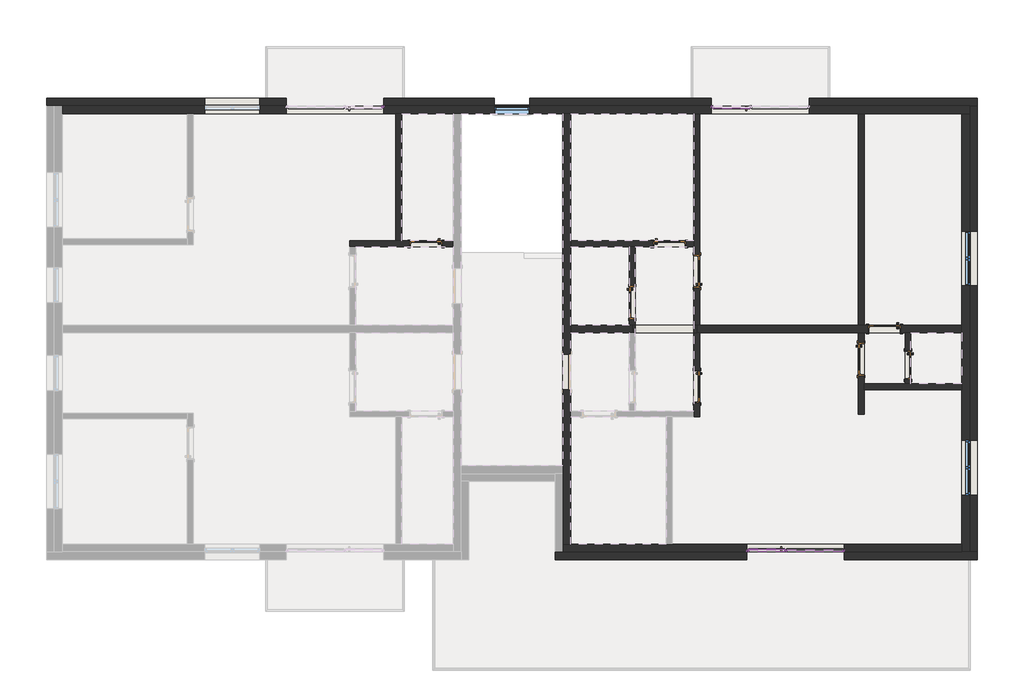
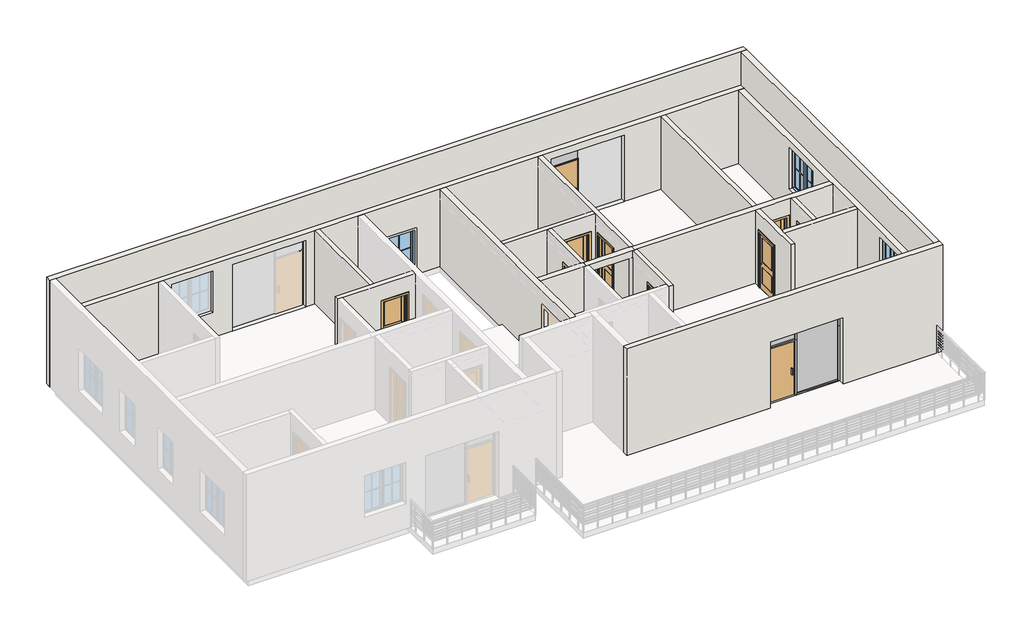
# One storey, part 2 of 6: 19 walls, 15 members, 10 doors, 3 plates, 3 windows.
"""IFC4 building model written with IfcOpenShell, lengths in millimetres."""

from ifc_helpers import new_model, si_unit, frame, origin, place, context, project, spatial, polyline, outline, extrude, faceted_brep, transform, mapped, element, save
from components import door_ff0059c9, door_21d3b074, door_700_x_2000mm_35cf3881, door_800_x_2000mm_7a4eaae7, door_800_x_2000mm_50fb24a1, door_800_x_2000mm_7f741745, member_50x50_mm_0b25df5f, member_50x50_mm_3bf2a5da, member_50x50_mm_d57dae31, member_50x50_mm_7f53e2b4, member_50x50_mm_58209b6d, member_50x50_mm_0f4eb3cd, member_50x50_mm_521fa47b, plate_240b6e4f, plate_5e06e8b0, plate_e159d5d1, window_1400_x_1500mm_e7e683e0, window_900_x_1500mm_3ca1c44a

model = new_model("IFC4")

# Units and contexts
model_context = context("Model", 3, world=origin())
ifc_project = project(units=[si_unit("LENGTHUNIT", "METRE", prefix="MILLI")], contexts=[model_context])

# Site, building, storey
site = spatial("IfcSite", under=ifc_project)
building = spatial("IfcBuilding", under=site)
storey = spatial("IfcBuildingStorey", under=building, Name="Podlaží 2", Elevation=3000.0)

# Doors
placement = place(None, origin())
door_shape = door_ff0059c9(model_context)
element("IfcDoor", 1, ObjectType="M_Dveře, obvodový plášť, jednoduché zasklení : M_Dveře, obvodový plášť, jednoduché zasklení", at=placement, inside=storey, context=model_context, shape_type="MappedRepresentation", body=[
    mapped(door_shape, transform((18012.5, 2325.0, 3000.0), x_axis=(-1.0, 0.0, 0.0), y_axis=(0.0, -1.0, 0.0), z_axis=(0.0, 0.0, 1.0))),
])
door_2_shape = door_21d3b074(model_context)
element("IfcDoor", 2, ObjectType="M_Dveře, obvodový plášť, jednoduché zasklení : M_Dveře, obvodový plášť, jednoduché zasklení", at=placement, inside=storey, context=model_context, shape_type="MappedRepresentation", body=[
    mapped(door_2_shape, transform((17112.5, 13675.0, 3000.0), x_axis=(-1.0, 0.0, 0.0), y_axis=(0.0, -1.0, 0.0), z_axis=(0.0, 0.0, 1.0))),
])
door_700_x_2000mm_shape = door_700_x_2000mm_35cf3881(model_context)
element("IfcDoor", 3, ObjectType="M_Dveře, vnitřní, jednokřídlé, dvě části, panel, dřevo : 700 x 2000mm", at=placement, inside=storey, context=model_context, shape_type="MappedRepresentation", body=[
    mapped(door_700_x_2000mm_shape, transform((21628.175, 7075.0, 3000.0), x_axis=(0.0, -1.0, 0.0), y_axis=(1.0, 0.0, 0.0), z_axis=(0.0, 0.0, 1.0))),
])
door_800_x_2000mm_shape = door_800_x_2000mm_7a4eaae7(model_context)
element("IfcDoor", 4, ObjectType="M_Dveře, vnitřní, jednokřídlé, dvě části, panel, dřevo : 800 x 2000mm", at=placement, inside=storey, context=model_context, shape_type="MappedRepresentation", body=[
    mapped(door_800_x_2000mm_shape, transform((9300.0, 10178.175, 3000.0), x_axis=(-1.0, 0.0, 0.0), y_axis=(0.0, -1.0, 0.0), z_axis=(0.0, 0.0, 1.0))),
])
element("IfcDoor", 5, ObjectType="M_Dveře, vnitřní, jednokřídlé, dvě části, panel, dřevo : 800 x 2000mm", at=placement, inside=storey, context=model_context, shape_type="MappedRepresentation", body=[
    mapped(door_800_x_2000mm_shape, transform((14571.825, 8675.0, 3000.0), x_axis=(0.0, -1.0, 0.0), y_axis=(1.0, 0.0, 0.0), z_axis=(0.0, 0.0, 1.0))),
])
element("IfcDoor", 6, ObjectType="M_Dveře, vnitřní, jednokřídlé, dvě části, panel, dřevo : 800 x 2000mm", at=placement, inside=storey, context=model_context, shape_type="MappedRepresentation", body=[
    mapped(door_800_x_2000mm_shape, transform((16228.175, 9475.0, 3000.0), x_axis=(0.0, 1.0, 0.0), y_axis=(-1.0, 0.0, 0.0), z_axis=(0.0, 0.0, 1.0))),
])
element("IfcDoor", 7, ObjectType="M_Dveře, vnitřní, jednokřídlé, dvě části, panel, dřevo : 800 x 2000mm", at=placement, inside=storey, context=model_context, shape_type="MappedRepresentation", body=[
    mapped(door_800_x_2000mm_shape, transform((20421.825, 7225.0, 3000.0), x_axis=(0.0, -1.0, 0.0), y_axis=(1.0, 0.0, 0.0), z_axis=(0.0, 0.0, 1.0))),
])
door_800_x_2000mm_2_shape = door_800_x_2000mm_50fb24a1(model_context)
element("IfcDoor", 8, ObjectType="M_Dveře, vnitřní, jednokřídlé, dvě části, panel, dřevo : 800 x 2000mm", at=placement, inside=storey, context=model_context, shape_type="MappedRepresentation", body=[
    mapped(door_800_x_2000mm_2_shape, transform((15525.0, 10178.175, 3000.0), x_axis=(1.0, 0.0, 0.0), y_axis=(0.0, 1.0, 0.0), z_axis=(0.0, 0.0, 1.0))),
])
element("IfcDoor", 9, ObjectType="M_Dveře, vnitřní, jednokřídlé, dvě části, panel, dřevo : 800 x 2000mm", at=placement, inside=storey, context=model_context, shape_type="MappedRepresentation", body=[
    mapped(door_800_x_2000mm_2_shape, transform((16228.175, 6525.0, 3000.0), x_axis=(0.0, -1.0, 0.0), y_axis=(1.0, 0.0, 0.0), z_axis=(0.0, 0.0, 1.0))),
])
door_800_x_2000mm_3_shape = door_800_x_2000mm_7f741745(model_context)
element("IfcDoor", 10, ObjectType="M_Dveře, vnitřní, jednokřídlé, dvě části, panel, dřevo : 800 x 2000mm", at=placement, inside=storey, context=model_context, shape_type="MappedRepresentation", body=[
    mapped(door_800_x_2000mm_3_shape, transform((21025.0, 8003.175, 3000.0), x_axis=(-1.0, 0.0, 0.0), y_axis=(0.0, -1.0, 0.0), z_axis=(0.0, 0.0, 1.0))),
])

# Members
member_50x50_mm_shape = member_50x50_mm_0b25df5f(model_context)
element("IfcMember", 11, ObjectType="Obdélníková příčel : 50x50 mm", at=placement, inside=storey, context=model_context, shape_type="MappedRepresentation", body=[
    mapped(member_50x50_mm_shape, transform((19950.0, 2325.0, 5400.0), x_axis=(0.0, 0.0, 1.0), y_axis=(0.0, -1.0, 0.0), z_axis=(1.0, 0.0, 0.0))),
])
member_50x50_mm_2_shape = member_50x50_mm_3bf2a5da(model_context)
element("IfcMember", 12, ObjectType="Obdélníková příčel : 50x50 mm", at=placement, inside=storey, context=model_context, shape_type="MappedRepresentation", body=[
    mapped(member_50x50_mm_2_shape, transform((18500.0, 2325.0, 3000.0), x_axis=(1.0, 0.0, 0.0), y_axis=(0.0, -1.0, 0.0), z_axis=(0.0, 0.0, -1.0))),
])
member_50x50_mm_3_shape = member_50x50_mm_d57dae31(model_context)
element("IfcMember", 13, ObjectType="Obdélníková příčel : 50x50 mm", at=placement, inside=storey, context=model_context, shape_type="MappedRepresentation", body=[
    mapped(member_50x50_mm_3_shape, transform((18475.0, 2325.0, 5000.0), x_axis=(0.0, 0.0, 1.0), y_axis=(0.0, -1.0, 0.0), z_axis=(1.0, 0.0, 0.0))),
])
element("IfcMember", 14, ObjectType="Obdélníková příčel : 50x50 mm", at=placement, inside=storey, context=model_context, shape_type="MappedRepresentation", body=[
    mapped(member_50x50_mm_shape, transform((18525.0, 2325.0, 3000.0), x_axis=(0.0, 0.0, -1.0), y_axis=(0.0, -1.0, 0.0), z_axis=(-1.0, 0.0, 0.0))),
])
member_50x50_mm_4_shape = member_50x50_mm_7f53e2b4(model_context)
element("IfcMember", 15, ObjectType="Obdélníková příčel : 50x50 mm", at=placement, inside=storey, context=model_context, shape_type="MappedRepresentation", body=[
    mapped(member_50x50_mm_4_shape, transform((18475.0, 2325.0, 5400.0), x_axis=(0.0, 0.0, 1.0), y_axis=(0.0, -1.0, 0.0), z_axis=(1.0, 0.0, 0.0))),
])
member_50x50_mm_5_shape = member_50x50_mm_58209b6d(model_context)
element("IfcMember", 16, ObjectType="Obdélníková příčel : 50x50 mm", at=placement, inside=storey, context=model_context, shape_type="MappedRepresentation", body=[
    mapped(member_50x50_mm_5_shape, transform((18500.0, 2325.0, 5000.0), x_axis=(1.0, 0.0, 0.0), y_axis=(0.0, -1.0, 0.0), z_axis=(0.0, 0.0, -1.0))),
])
member_50x50_mm_6_shape = member_50x50_mm_0f4eb3cd(model_context)
element("IfcMember", 17, ObjectType="Obdélníková příčel : 50x50 mm", at=placement, inside=storey, context=model_context, shape_type="MappedRepresentation", body=[
    mapped(member_50x50_mm_6_shape, transform((17500.0, 2325.0, 5400.0), x_axis=(-1.0, 0.0, 0.0), y_axis=(0.0, -1.0, 0.0), z_axis=(0.0, 0.0, 1.0))),
])
member_50x50_mm_7_shape = member_50x50_mm_521fa47b(model_context)
element("IfcMember", 18, ObjectType="Obdélníková příčel : 50x50 mm", at=placement, inside=storey, context=model_context, shape_type="MappedRepresentation", body=[
    mapped(member_50x50_mm_7_shape, transform((20000.0, 2325.0, 3000.0), x_axis=(1.0, 0.0, 0.0), y_axis=(0.0, -1.0, 0.0), z_axis=(0.0, 0.0, -1.0))),
])
element("IfcMember", 19, ObjectType="Obdélníková příčel : 50x50 mm", at=placement, inside=storey, context=model_context, shape_type="MappedRepresentation", body=[
    mapped(member_50x50_mm_6_shape, transform((20000.0, 2325.0, 5000.0), x_axis=(1.0, 0.0, 0.0), y_axis=(0.0, -1.0, 0.0), z_axis=(0.0, 0.0, -1.0))),
])
element("IfcMember", 20, ObjectType="Obdélníková příčel : 50x50 mm", at=placement, inside=storey, context=model_context, shape_type="MappedRepresentation", body=[
    mapped(member_50x50_mm_7_shape, transform((17500.0, 2325.0, 5000.0), x_axis=(-1.0, 0.0, 0.0), y_axis=(0.0, -1.0, 0.0), z_axis=(0.0, 0.0, 1.0))),
])
element("IfcMember", 21, ObjectType="Obdélníková příčel : 50x50 mm", at=placement, inside=storey, context=model_context, shape_type="MappedRepresentation", body=[
    mapped(member_50x50_mm_2_shape, transform((17600.0, 13675.0, 3000.0), x_axis=(1.0, 0.0, 0.0), y_axis=(0.0, -1.0, 0.0), z_axis=(0.0, 0.0, -1.0))),
])
element("IfcMember", 22, ObjectType="Obdélníková příčel : 50x50 mm", at=placement, inside=storey, context=model_context, shape_type="MappedRepresentation", body=[
    mapped(member_50x50_mm_6_shape, transform((16600.0, 13675.0, 5400.0), x_axis=(-1.0, 0.0, 0.0), y_axis=(0.0, -1.0, 0.0), z_axis=(0.0, 0.0, 1.0))),
])
element("IfcMember", 23, ObjectType="Obdélníková příčel : 50x50 mm", at=placement, inside=storey, context=model_context, shape_type="MappedRepresentation", body=[
    mapped(member_50x50_mm_7_shape, transform((16600.0, 13675.0, 5000.0), x_axis=(-1.0, 0.0, 0.0), y_axis=(0.0, -1.0, 0.0), z_axis=(0.0, 0.0, 1.0))),
])
element("IfcMember", 24, ObjectType="Obdélníková příčel : 50x50 mm", at=placement, inside=storey, context=model_context, shape_type="MappedRepresentation", body=[
    mapped(member_50x50_mm_6_shape, transform((8225.0, 13675.0, 5400.0), x_axis=(1.0, 0.0, 0.0), y_axis=(0.0, 1.0, 0.0), z_axis=(0.0, 0.0, 1.0))),
])
element("IfcMember", 25, ObjectType="Obdélníková příčel : 50x50 mm", at=placement, inside=storey, context=model_context, shape_type="MappedRepresentation", body=[
    mapped(member_50x50_mm_7_shape, transform((8225.0, 13675.0, 5000.0), x_axis=(1.0, 0.0, 0.0), y_axis=(0.0, 1.0, 0.0), z_axis=(0.0, 0.0, 1.0))),
])

# Plates
plate_shape = plate_240b6e4f(model_context)
element("IfcPlate", 26, ObjectType="Systémový panel : Zasklené", at=placement, inside=storey, context=model_context, shape_type="MappedRepresentation", body=[
    mapped(plate_shape, transform((19237.5, 2325.0, 3050.0), x_axis=(1.0, 0.0, 0.0), y_axis=(0.0, 1.0, 0.0), z_axis=(0.0, 0.0, 1.0))),
])
plate_2_shape = plate_5e06e8b0(model_context)
element("IfcPlate", 27, ObjectType="Systémový panel : Zasklené", at=placement, inside=storey, context=model_context, shape_type="MappedRepresentation", body=[
    mapped(plate_2_shape, transform((18012.5, 2325.0, 5025.0), x_axis=(1.0, 0.0, 0.0), y_axis=(0.0, 1.0, 0.0), z_axis=(0.0, 0.0, 1.0))),
])
plate_3_shape = plate_e159d5d1(model_context)
element("IfcPlate", 28, ObjectType="Systémový panel : Zasklené", at=placement, inside=storey, context=model_context, shape_type="MappedRepresentation", body=[
    mapped(plate_3_shape, transform((17112.5, 13675.0, 5025.0), x_axis=(1.0, 0.0, 0.0), y_axis=(0.0, 1.0, 0.0), z_axis=(0.0, 0.0, 1.0))),
])

# Walls
element("IfcWall", 29, ObjectType="Železobeton 200 mm", at=placement, inside=storey, context=model_context, shape_type="Brep", body=[
    faceted_brep([(0.0, 13500.0, 2850.0), (3200.0, 13500.0, 2850.0), (3350.0, 13500.0, 2850.0), (8525.0, 13500.0, 2850.0), (8675.0, 13500.0, 2850.0), (10000.0, 13500.0, 2850.0), (10200.0, 13500.0, 2850.0), (12800.0, 13500.0, 2850.0), (13000.0, 13500.0, 2850.0), (16150.0, 13500.0, 2850.0), (16300.0, 13500.0, 2850.0), (20350.0, 13500.0, 2850.0), (20500.0, 13500.0, 2850.0), (23000.0, 13500.0, 2850.0), (23200.0, 13500.0, 2850.0), (23200.0, 13500.0, 5650.0), (23000.0, 13500.0, 5650.0), (20500.0, 13500.0, 5650.0), (20350.0, 13500.0, 5650.0), (16300.0, 13500.0, 5650.0), (16150.0, 13500.0, 5650.0), (13000.0, 13500.0, 5650.0), (12800.0, 13500.0, 5650.0), (10200.0, 13500.0, 5650.0), (10000.0, 13500.0, 5650.0), (8675.0, 13500.0, 5650.0), (8525.0, 13500.0, 5650.0), (3350.0, 13500.0, 5650.0), (3200.0, 13500.0, 5650.0), (0.0, 13500.0, 5650.0), (3650.0, 13500.0, 5400.0), (5050.0, 13500.0, 5400.0), (5050.0, 13500.0, 3900.0), (3650.0, 13500.0, 3900.0), (11950.0, 13500.0, 4500.0), (11950.0, 13500.0, 3000.0), (11050.0, 13500.0, 3000.0), (11050.0, 13500.0, 4500.0), (16600.0, 13500.0, 3000.0), (16600.0, 13500.0, 5400.0), (19100.0, 13500.0, 5400.0), (19100.0, 13500.0, 3000.0), (8225.0, 13500.0, 5400.0), (8225.0, 13500.0, 3000.0), (5725.0, 13500.0, 3000.0), (5725.0, 13500.0, 5400.0), (23200.0, 13700.0, 2850.0), (0.0, 13700.0, 2850.0), (0.0, 13700.0, 5650.0), (23200.0, 13700.0, 5650.0), (23200.0, 13700.0, 3000.0), (3650.0, 13700.0, 5400.0), (3650.0, 13700.0, 3900.0), (5050.0, 13700.0, 3900.0), (5050.0, 13700.0, 5400.0), (11950.0, 13700.0, 4500.0), (11050.0, 13700.0, 4500.0), (11050.0, 13700.0, 3000.0), (11950.0, 13700.0, 3000.0), (16600.0, 13700.0, 5400.0), (16600.0, 13700.0, 3000.0), (19100.0, 13700.0, 3000.0), (19100.0, 13700.0, 5400.0), (8225.0, 13700.0, 3000.0), (8225.0, 13700.0, 5400.0), (5725.0, 13700.0, 5400.0), (5725.0, 13700.0, 3000.0)], [[[0, 1, 2, 3, 4, 5, 6, 7, 8, 9, 10, 11, 12, 13, 14, 15, 16, 17, 18, 19, 20, 21, 22, 23, 24, 25, 26, 27, 28, 29], [30, 31, 32, 33], [34, 35, 36, 37], [38, 39, 40, 41], [42, 43, 44, 45]], [[46, 47, 48, 49, 50], [51, 52, 53, 54], [55, 56, 57, 58], [59, 60, 61, 62], [63, 64, 65, 66]], [[14, 13, 12, 11, 10, 9, 8, 7, 6, 5, 4, 3, 2, 1, 0, 47, 46]], [[29, 28, 27, 26, 25, 24, 23, 22, 21, 20, 19, 18, 17, 16, 15, 49, 48]], [[0, 29, 48, 47]], [[15, 14, 46, 50, 49]], [[52, 51, 30, 33]], [[53, 52, 33, 32]], [[54, 53, 32, 31]], [[51, 54, 31, 30]], [[35, 34, 55, 58]], [[36, 35, 58, 57]], [[37, 36, 57, 56]], [[34, 37, 56, 55]], [[38, 60, 59, 39]], [[39, 59, 62, 40]], [[40, 62, 61, 41]], [[60, 38, 41, 61]], [[63, 43, 42, 64]], [[64, 42, 45, 65]], [[44, 66, 65, 45]], [[43, 63, 66, 44]]]),
])
element("IfcWall", 30, ObjectType="Železobeton 200 mm", at=placement, inside=storey, context=model_context, shape_type="Brep", body=[
    faceted_brep([(23000.0, 13500.0, 2850.0), (23000.0, 8100.0, 2850.0), (23000.0, 7900.0, 2850.0), (23000.0, 6600.0, 2850.0), (23000.0, 6450.0, 2850.0), (23000.0, 2500.0, 2850.0), (23000.0, 2300.0, 2850.0), (23000.0, 2300.0, 5650.0), (23000.0, 2500.0, 5650.0), (23000.0, 6450.0, 5650.0), (23000.0, 6600.0, 5650.0), (23000.0, 7900.0, 5650.0), (23000.0, 8100.0, 5650.0), (23000.0, 13500.0, 5650.0), (23000.0, 10500.0, 5400.0), (23000.0, 9100.0, 5400.0), (23000.0, 9100.0, 3900.0), (23000.0, 10500.0, 3900.0), (23000.0, 5150.0, 5400.0), (23000.0, 3750.0, 5400.0), (23000.0, 3750.0, 3900.0), (23000.0, 5150.0, 3900.0), (23200.0, 13500.0, 2850.0), (23200.0, 13500.0, 5650.0), (23200.0, 2300.0, 5650.0), (23200.0, 2300.0, 3000.0), (23200.0, 2300.0, 2850.0), (23200.0, 10500.0, 5400.0), (23200.0, 10500.0, 3900.0), (23200.0, 9100.0, 3900.0), (23200.0, 9100.0, 5400.0), (23200.0, 5150.0, 5400.0), (23200.0, 5150.0, 3900.0), (23200.0, 3750.0, 3900.0), (23200.0, 3750.0, 5400.0)], [[[0, 1, 2, 3, 4, 5, 6, 7, 8, 9, 10, 11, 12, 13], [14, 15, 16, 17], [18, 19, 20, 21]], [[22, 23, 24, 25, 26], [27, 28, 29, 30], [31, 32, 33, 34]], [[6, 5, 4, 3, 2, 1, 0, 22, 26]], [[13, 12, 11, 10, 9, 8, 7, 24, 23]], [[0, 13, 23, 22]], [[7, 6, 26, 25, 24]], [[28, 27, 14, 17]], [[29, 28, 17, 16]], [[30, 29, 16, 15]], [[27, 30, 15, 14]], [[32, 31, 18, 21]], [[33, 32, 21, 20]], [[34, 33, 20, 19]], [[31, 34, 19, 18]]]),
])
element("IfcWall", 31, ObjectType="Železobeton 200 mm", at=placement, inside=storey, context=model_context, shape_type="Brep", body=[
    faceted_brep([(23000.0, 2500.0, 2850.0), (15600.0, 2500.0, 2850.0), (15450.0, 2500.0, 2850.0), (13000.0, 2500.0, 2850.0), (12800.0, 2500.0, 2850.0), (12800.0, 2500.0, 5650.0), (13000.0, 2500.0, 5650.0), (15450.0, 2500.0, 5650.0), (15600.0, 2500.0, 5650.0), (23000.0, 2500.0, 5650.0), (17500.0, 2500.0, 5400.0), (17500.0, 2500.0, 3000.0), (20000.0, 2500.0, 3000.0), (20000.0, 2500.0, 5400.0), (12800.0, 2300.0, 2850.0), (23000.0, 2300.0, 2850.0), (23000.0, 2300.0, 5650.0), (12800.0, 2300.0, 5650.0), (12800.0, 2300.0, 3000.0), (17500.0, 2300.0, 3000.0), (17500.0, 2300.0, 5400.0), (20000.0, 2300.0, 5400.0), (20000.0, 2300.0, 3000.0)], [[[0, 1, 2, 3, 4, 5, 6, 7, 8, 9], [10, 11, 12, 13]], [[14, 15, 16, 17, 18], [19, 20, 21, 22]], [[4, 3, 2, 1, 0, 15, 14]], [[9, 8, 7, 6, 5, 17, 16]], [[0, 9, 16, 15]], [[5, 4, 14, 18, 17]], [[19, 11, 10, 20]], [[20, 10, 13, 21]], [[21, 13, 12, 22]], [[11, 19, 22, 12]]]),
])
element("IfcWall", 32, ObjectType="Železobeton 200 mm", at=placement, inside=storey, context=model_context, shape_type="Brep", body=[
    faceted_brep([(13000.0, 2500.0, 2850.0), (13000.0, 5750.0, 2850.0), (13000.0, 5900.0, 2850.0), (13000.0, 7900.0, 2850.0), (13000.0, 8100.0, 2850.0), (13000.0, 10100.0, 2850.0), (13000.0, 10250.0, 2850.0), (13000.0, 13500.0, 2850.0), (13000.0, 13500.0, 5650.0), (13000.0, 10250.0, 5650.0), (13000.0, 10100.0, 5650.0), (13000.0, 8100.0, 5650.0), (13000.0, 7900.0, 5650.0), (13000.0, 5900.0, 5650.0), (13000.0, 5750.0, 5650.0), (13000.0, 2500.0, 5650.0), (13000.0, 6450.0, 3000.0), (13000.0, 6450.0, 5100.0), (13000.0, 7350.0, 5100.0), (13000.0, 7350.0, 3000.0), (12800.0, 2500.0, 2850.0), (12800.0, 2500.0, 5650.0), (12800.0, 4300.0, 5650.0), (12800.0, 4500.0, 5650.0), (12800.0, 13500.0, 5650.0), (12800.0, 13500.0, 2850.0), (12800.0, 4500.0, 2850.0), (12800.0, 4300.0, 2850.0), (12800.0, 6450.0, 3000.0), (12800.0, 7350.0, 3000.0), (12800.0, 7350.0, 5100.0), (12800.0, 6450.0, 5100.0)], [[[0, 1, 2, 3, 4, 5, 6, 7, 8, 9, 10, 11, 12, 13, 14, 15], [16, 17, 18, 19]], [[20, 21, 22, 23, 24, 25, 26, 27], [28, 29, 30, 31]], [[7, 6, 5, 4, 3, 2, 1, 0, 20, 27, 26, 25]], [[15, 14, 13, 12, 11, 10, 9, 8, 24, 23, 22, 21]], [[0, 15, 21, 20]], [[8, 7, 25, 24]], [[29, 28, 16, 19]], [[30, 29, 19, 18]], [[31, 30, 18, 17]], [[28, 31, 17, 16]]]),
])
element("IfcWall", 33, ObjectType="Železobeton 200 mm", at=placement, inside=storey, context=model_context, shape_type="Brep", body=[
    faceted_brep([(13000.0, 7900.0, 2850.0), (14500.0, 7900.0, 2850.0), (14575.0, 7900.0, 2850.0), (14575.0, 7900.0, 5650.0), (14500.0, 7900.0, 5650.0), (13000.0, 7900.0, 5650.0), (13000.0, 8100.0, 2850.0), (13000.0, 8100.0, 5650.0), (14500.0, 8100.0, 5650.0), (14575.0, 8100.0, 5650.0), (14575.0, 8100.0, 2850.0), (14500.0, 8100.0, 2850.0)], [[[0, 1, 2, 3, 4, 5]], [[6, 7, 8, 9, 10, 11]], [[2, 1, 0, 6, 11, 10]], [[3, 2, 10, 9]], [[5, 4, 3, 9, 8, 7]], [[0, 5, 7, 6]]]),
])
element("IfcWall", 34, ObjectType="Obecné, 150mm cihla", at=placement, inside=storey, context=model_context, shape_type="Brep", body=[
    faceted_brep([(10000.0, 10250.0, 2850.0), (8675.0, 10250.0, 2850.0), (8525.0, 10250.0, 2850.0), (7350.0, 10250.0, 2850.0), (7350.0, 10250.0, 5650.0), (8525.0, 10250.0, 5650.0), (8675.0, 10250.0, 5650.0), (10000.0, 10250.0, 5650.0), (8875.0, 10250.0, 5025.0), (8875.0, 10250.0, 3000.0), (9725.0, 10250.0, 3000.0), (9725.0, 10250.0, 5025.0), (7350.0, 10100.0, 2850.0), (7500.0, 10100.0, 2850.0), (10000.0, 10100.0, 2850.0), (10000.0, 10100.0, 5650.0), (7500.0, 10100.0, 5650.0), (7350.0, 10100.0, 5650.0), (8875.0, 10100.0, 3000.0), (8875.0, 10100.0, 5025.0), (9725.0, 10100.0, 5025.0), (9725.0, 10100.0, 3000.0)], [[[0, 1, 2, 3, 4, 5, 6, 7], [8, 9, 10, 11]], [[12, 13, 14, 15, 16, 17], [18, 19, 20, 21]], [[3, 2, 1, 0, 14, 13, 12]], [[7, 6, 5, 4, 17, 16, 15]], [[0, 7, 15, 14]], [[4, 3, 12, 17]], [[18, 9, 8, 19]], [[19, 8, 11, 20]], [[20, 11, 10, 21]], [[9, 18, 21, 10]]]),
])
element("IfcWall", 35, ObjectType="Obecné, 150mm cihla", at=placement, inside=storey, context=model_context, shape_type="SweptSolid", body=[
    extrude(outline(polyline([(8675.0, 13500.0), (8675.0, 10250.0), (8525.0, 10250.0), (8525.0, 13500.0), (8675.0, 13500.0)])), frame((0.0, 0.0, 2850.0), z_axis=(0.0, 0.0, 1.0), x_axis=(1.0, 0.0, 0.0)), (0.0, 0.0, 1.0), 2800.0),
])
element("IfcWall", 36, ObjectType="Obecné, 150mm cihla", at=placement, inside=storey, context=model_context, shape_type="Brep", body=[
    faceted_brep([(16150.0, 10250.0, 2850.0), (13000.0, 10250.0, 2850.0), (13000.0, 10250.0, 5650.0), (16150.0, 10250.0, 5650.0), (15950.0, 10250.0, 3000.0), (15950.0, 10250.0, 5025.0), (15100.0, 10250.0, 5025.0), (15100.0, 10250.0, 3000.0), (13000.0, 10100.0, 2850.0), (14500.0, 10100.0, 2850.0), (14650.0, 10100.0, 2850.0), (16150.0, 10100.0, 2850.0), (16150.0, 10100.0, 5650.0), (14650.0, 10100.0, 5650.0), (14500.0, 10100.0, 5650.0), (13000.0, 10100.0, 5650.0), (15950.0, 10100.0, 5025.0), (15950.0, 10100.0, 3000.0), (15100.0, 10100.0, 3000.0), (15100.0, 10100.0, 5025.0)], [[[0, 1, 2, 3], [4, 5, 6, 7]], [[8, 9, 10, 11, 12, 13, 14, 15], [16, 17, 18, 19]], [[1, 0, 11, 10, 9, 8]], [[3, 2, 15, 14, 13, 12]], [[2, 1, 8, 15]], [[0, 3, 12, 11]], [[4, 17, 16, 5]], [[5, 16, 19, 6]], [[6, 19, 18, 7]], [[17, 4, 7, 18]]]),
])
element("IfcWall", 37, ObjectType="Obecné, 150mm cihla", at=placement, inside=storey, context=model_context, shape_type="Brep", body=[
    faceted_brep([(16300.0, 5750.0, 2850.0), (16300.0, 7900.0, 2850.0), (16300.0, 7900.0, 5650.0), (16300.0, 5750.0, 5650.0), (16300.0, 6100.0, 3000.0), (16300.0, 6100.0, 5025.0), (16300.0, 6950.0, 5025.0), (16300.0, 6950.0, 3000.0), (16150.0, 7900.0, 2850.0), (16150.0, 5900.0, 2850.0), (16150.0, 5750.0, 2850.0), (16150.0, 5750.0, 5650.0), (16150.0, 5900.0, 5650.0), (16150.0, 7900.0, 5650.0), (16150.0, 7900.0, 5400.0), (16150.0, 7900.0, 3000.0), (16150.0, 6100.0, 5025.0), (16150.0, 6100.0, 3000.0), (16150.0, 6950.0, 3000.0), (16150.0, 6950.0, 5025.0), (16225.0, 7900.0, 2850.0), (16225.0, 7900.0, 5650.0)], [[[0, 1, 2, 3], [4, 5, 6, 7]], [[8, 9, 10, 11, 12, 13, 14, 15], [16, 17, 18, 19]], [[1, 0, 10, 9, 8, 20]], [[3, 2, 21, 13, 12, 11]], [[0, 3, 11, 10]], [[4, 17, 16, 5]], [[5, 16, 19, 6]], [[6, 19, 18, 7]], [[17, 4, 7, 18]], [[2, 1, 20, 8, 15, 14, 13, 21]]]),
])
element("IfcWall", 38, ObjectType="Obecné, 150mm cihla", at=placement, inside=storey, context=model_context, shape_type="Brep", body=[
    faceted_brep([(20500.0, 5825.0, 5650.0), (20500.0, 5825.0, 2850.0), (20500.0, 6450.0, 2850.0), (20500.0, 6600.0, 2850.0), (20500.0, 7900.0, 2850.0), (20500.0, 7900.0, 5650.0), (20500.0, 6600.0, 5650.0), (20500.0, 6450.0, 5650.0), (20500.0, 6800.0, 3000.0), (20500.0, 6800.0, 5025.0), (20500.0, 7650.0, 5025.0), (20500.0, 7650.0, 3000.0), (20350.0, 5825.0, 2850.0), (20350.0, 5825.0, 5650.0), (20350.0, 7900.0, 5650.0), (20350.0, 7900.0, 2850.0), (20350.0, 6800.0, 5025.0), (20350.0, 6800.0, 3000.0), (20350.0, 7650.0, 3000.0), (20350.0, 7650.0, 5025.0)], [[[0, 1, 2, 3, 4, 5, 6, 7], [8, 9, 10, 11]], [[12, 13, 14, 15], [16, 17, 18, 19]], [[1, 12, 15, 4, 3, 2]], [[13, 0, 7, 6, 5, 14]], [[1, 0, 13, 12]], [[8, 17, 16, 9]], [[9, 16, 19, 10]], [[18, 11, 10, 19]], [[17, 8, 11, 18]], [[5, 4, 15, 14]]]),
    faceted_brep([(20500.0, 13500.0, 2850.0), (20500.0, 13500.0, 5650.0), (20500.0, 8100.0, 5650.0), (20500.0, 8100.0, 2850.0), (20350.0, 13500.0, 5650.0), (20350.0, 13500.0, 2850.0), (20350.0, 8100.0, 2850.0), (20350.0, 8100.0, 5650.0)], [[[0, 1, 2, 3]], [[4, 5, 6, 7]], [[5, 0, 3, 6]], [[1, 4, 7, 2]], [[1, 0, 5, 4]], [[3, 2, 7, 6]]]),
])
element("IfcWall", 39, ObjectType="Obecné, 150mm cihla", at=placement, inside=storey, context=model_context, shape_type="Brep", body=[
    faceted_brep([(20500.0, 6450.0, 2850.0), (23000.0, 6450.0, 2850.0), (23000.0, 6450.0, 5650.0), (20500.0, 6450.0, 5650.0), (20500.0, 6600.0, 2850.0), (20500.0, 6600.0, 5650.0), (21550.0, 6600.0, 5650.0), (21700.0, 6600.0, 5650.0), (23000.0, 6600.0, 5650.0), (23000.0, 6600.0, 2850.0), (21700.0, 6600.0, 2850.0), (21550.0, 6600.0, 2850.0)], [[[0, 1, 2, 3]], [[4, 5, 6, 7, 8, 9, 10, 11]], [[1, 0, 4, 11, 10, 9]], [[3, 2, 8, 7, 6, 5]], [[2, 1, 9, 8]], [[0, 3, 5, 4]]]),
])
element("IfcWall", 40, ObjectType="Obecné, 150mm cihla", at=placement, inside=storey, context=model_context, shape_type="SweptSolid", body=[
    extrude(outline(polyline([(7900.0, 2850.0), (6600.0, 2850.0), (6600.0, 5650.0), (7900.0, 5650.0), (7900.0, 2850.0)]), holes=[polyline([(6700.0, 5025.0), (6700.0, 3000.0), (7450.0, 3000.0), (7450.0, 5025.0), (6700.0, 5025.0)])]), frame((21550.0, 0.0, 0.0), z_axis=(1.0, 0.0, 0.0), x_axis=(0.0, 1.0, 0.0)), (0.0, 0.0, 1.0), 150.0),
])
element("IfcWall", 41, ObjectType="Železobeton 200 mm", at=placement, inside=storey, context=model_context, shape_type="Brep", body=[
    faceted_brep([(14575.0, 7900.0, 2850.0), (14650.0, 7900.0, 2850.0), (16150.0, 7900.0, 2850.0), (16225.0, 7900.0, 2850.0), (16225.0, 7900.0, 5650.0), (16150.0, 7900.0, 5650.0), (14650.0, 7900.0, 5650.0), (14575.0, 7900.0, 5650.0), (14650.0, 7900.0, 5400.0), (16150.0, 7900.0, 5400.0), (16150.0, 7900.0, 3000.0), (14650.0, 7900.0, 3000.0), (14575.0, 8100.0, 2850.0), (14575.0, 8100.0, 5650.0), (14650.0, 8100.0, 5650.0), (16150.0, 8100.0, 5650.0), (16225.0, 8100.0, 5650.0), (16225.0, 8100.0, 2850.0), (16150.0, 8100.0, 2850.0), (14650.0, 8100.0, 2850.0), (14650.0, 8100.0, 5400.0), (14650.0, 8100.0, 3000.0), (16150.0, 8100.0, 3000.0), (16150.0, 8100.0, 5400.0)], [[[0, 1, 2, 3, 4, 5, 6, 7], [8, 9, 10, 11]], [[12, 13, 14, 15, 16, 17, 18, 19], [20, 21, 22, 23]], [[3, 2, 1, 0, 12, 19, 18, 17]], [[4, 3, 17, 16]], [[7, 6, 5, 4, 16, 15, 14, 13]], [[0, 7, 13, 12]], [[20, 23, 9, 8]], [[23, 22, 10, 9]], [[22, 21, 11, 10]], [[21, 20, 8, 11]]]),
])
element("IfcWall", 42, ObjectType="Železobeton 200 mm", at=placement, inside=storey, context=model_context, shape_type="Brep", body=[
    faceted_brep([(16225.0, 7900.0, 2850.0), (16300.0, 7900.0, 2850.0), (20350.0, 7900.0, 2850.0), (20500.0, 7900.0, 2850.0), (21550.0, 7900.0, 2850.0), (21700.0, 7900.0, 2850.0), (23000.0, 7900.0, 2850.0), (23000.0, 7900.0, 5650.0), (21700.0, 7900.0, 5650.0), (21550.0, 7900.0, 5650.0), (20500.0, 7900.0, 5650.0), (20350.0, 7900.0, 5650.0), (16300.0, 7900.0, 5650.0), (16225.0, 7900.0, 5650.0), (20600.0, 7900.0, 3000.0), (20600.0, 7900.0, 5025.0), (21450.0, 7900.0, 5025.0), (21450.0, 7900.0, 3000.0), (16225.0, 8100.0, 2850.0), (16225.0, 8100.0, 5650.0), (16300.0, 8100.0, 5650.0), (20350.0, 8100.0, 5650.0), (20500.0, 8100.0, 5650.0), (23000.0, 8100.0, 5650.0), (23000.0, 8100.0, 2850.0), (20500.0, 8100.0, 2850.0), (20350.0, 8100.0, 2850.0), (16300.0, 8100.0, 2850.0), (20600.0, 8100.0, 3000.0), (21450.0, 8100.0, 3000.0), (21450.0, 8100.0, 5025.0), (20600.0, 8100.0, 5025.0)], [[[0, 1, 2, 3, 4, 5, 6, 7, 8, 9, 10, 11, 12, 13], [14, 15, 16, 17]], [[18, 19, 20, 21, 22, 23, 24, 25, 26, 27], [28, 29, 30, 31]], [[6, 5, 4, 3, 2, 1, 0, 18, 27, 26, 25, 24]], [[13, 12, 11, 10, 9, 8, 7, 23, 22, 21, 20, 19]], [[0, 13, 19, 18]], [[7, 6, 24, 23]], [[14, 17, 29, 28]], [[17, 16, 30, 29]], [[16, 15, 31, 30]], [[15, 14, 28, 31]]]),
])
element("IfcWall", 43, ObjectType="Obecné, 150mm cihla", at=placement, inside=storey, context=model_context, shape_type="Brep", body=[
    faceted_brep([(16300.0, 8100.0, 2850.0), (16300.0, 13500.0, 2850.0), (16300.0, 13500.0, 5650.0), (16300.0, 8100.0, 5650.0), (16300.0, 9900.0, 3000.0), (16300.0, 9050.0, 3000.0), (16300.0, 9050.0, 5025.0), (16300.0, 9900.0, 5025.0), (16150.0, 8100.0, 2850.0), (16150.0, 8100.0, 3000.0), (16150.0, 8100.0, 5400.0), (16150.0, 8100.0, 5650.0), (16150.0, 10100.0, 5650.0), (16150.0, 10250.0, 5650.0), (16150.0, 13500.0, 5650.0), (16150.0, 13500.0, 2850.0), (16150.0, 10250.0, 2850.0), (16150.0, 10100.0, 2850.0), (16150.0, 9900.0, 3000.0), (16150.0, 9900.0, 5025.0), (16150.0, 9050.0, 5025.0), (16150.0, 9050.0, 3000.0), (16225.0, 8100.0, 2850.0), (16225.0, 8100.0, 5650.0)], [[[0, 1, 2, 3], [4, 5, 6, 7]], [[8, 9, 10, 11, 12, 13, 14, 15, 16, 17], [18, 19, 20, 21]], [[1, 0, 22, 8, 17, 16, 15]], [[3, 2, 14, 13, 12, 11, 23]], [[2, 1, 15, 14]], [[18, 21, 5, 4]], [[21, 20, 6, 5]], [[20, 19, 7, 6]], [[19, 18, 4, 7]], [[0, 3, 23, 11, 10, 9, 8, 22]]]),
])
element("IfcWall", 44, ObjectType="Obecné, 150mm cihla", at=placement, inside=storey, context=model_context, shape_type="Brep", body=[
    faceted_brep([(14650.0, 8100.0, 2850.0), (14650.0, 10100.0, 2850.0), (14650.0, 10100.0, 5650.0), (14650.0, 8100.0, 5650.0), (14650.0, 8100.0, 5400.0), (14650.0, 8100.0, 3000.0), (14650.0, 8250.0, 3000.0), (14650.0, 8250.0, 5025.0), (14650.0, 9100.0, 5025.0), (14650.0, 9100.0, 3000.0), (14500.0, 8100.0, 2850.0), (14500.0, 8100.0, 5650.0), (14500.0, 10100.0, 5650.0), (14500.0, 10100.0, 2850.0), (14500.0, 8250.0, 3000.0), (14500.0, 9100.0, 3000.0), (14500.0, 9100.0, 5025.0), (14500.0, 8250.0, 5025.0), (14575.0, 8100.0, 2850.0), (14575.0, 8100.0, 5650.0)], [[[0, 1, 2, 3, 4, 5], [6, 7, 8, 9]], [[10, 11, 12, 13], [14, 15, 16, 17]], [[1, 0, 18, 10, 13]], [[3, 2, 12, 11, 19]], [[2, 1, 13, 12]], [[6, 9, 15, 14]], [[9, 8, 16, 15]], [[8, 7, 17, 16]], [[7, 6, 14, 17]], [[0, 5, 4, 3, 19, 11, 10, 18]]]),
])
element("IfcWall", 45, ObjectType="ETICS, 200mm", at=placement, inside=storey, context=model_context, shape_type="Brep", body=[
    faceted_brep([(23400.0, 13700.0, 6850.0), (23200.0, 13700.0, 6850.0), (-200.0, 13700.0, 6850.0), (-400.0, 13700.0, 6850.0), (-400.0, 13700.0, 3000.0), (-200.0, 13700.0, 3000.0), (5725.0, 13700.0, 3000.0), (5725.0, 13700.0, 5400.0), (8225.0, 13700.0, 5400.0), (8225.0, 13700.0, 3000.0), (11050.0, 13700.0, 3000.0), (11050.0, 13700.0, 4500.0), (11950.0, 13700.0, 4500.0), (11950.0, 13700.0, 3000.0), (16600.0, 13700.0, 3000.0), (16600.0, 13700.0, 5400.0), (19100.0, 13700.0, 5400.0), (19100.0, 13700.0, 3000.0), (23200.0, 13700.0, 3000.0), (23400.0, 13700.0, 3000.0), (3650.0, 13700.0, 5400.0), (5050.0, 13700.0, 5400.0), (5050.0, 13700.0, 3900.0), (3650.0, 13700.0, 3900.0), (-400.0, 13900.0, 6850.0), (23400.0, 13900.0, 6850.0), (23400.0, 13900.0, 3000.0), (19100.0, 13900.0, 3000.0), (19100.0, 13900.0, 5400.0), (16600.0, 13900.0, 5400.0), (16600.0, 13900.0, 3000.0), (11950.0, 13900.0, 3000.0), (11950.0, 13900.0, 4500.0), (11050.0, 13900.0, 4500.0), (11050.0, 13900.0, 3000.0), (8225.0, 13900.0, 3000.0), (8225.0, 13900.0, 5400.0), (5725.0, 13900.0, 5400.0), (5725.0, 13900.0, 3000.0), (-400.0, 13900.0, 3000.0), (3650.0, 13900.0, 5400.0), (3650.0, 13900.0, 3900.0), (5050.0, 13900.0, 3900.0), (5050.0, 13900.0, 5400.0)], [[[0, 1, 2, 3, 4, 5, 6, 7, 8, 9, 10, 11, 12, 13, 14, 15, 16, 17, 18, 19], [20, 21, 22, 23]], [[24, 25, 26, 27, 28, 29, 30, 31, 32, 33, 34, 35, 36, 37, 38, 39], [40, 41, 42, 43]], [[26, 19, 18, 17, 27]], [[4, 39, 38, 6, 5]], [[13, 31, 30, 14]], [[34, 10, 9, 35]], [[3, 2, 1, 0, 25, 24]], [[0, 19, 26, 25]], [[4, 3, 24, 39]], [[41, 40, 20, 23]], [[42, 41, 23, 22]], [[43, 42, 22, 21]], [[40, 43, 21, 20]], [[13, 12, 32, 31]], [[11, 10, 34, 33]], [[12, 11, 33, 32]], [[29, 15, 14, 30]], [[15, 29, 28, 16]], [[16, 28, 27, 17]], [[8, 36, 35, 9]], [[36, 8, 7, 37]], [[37, 7, 6, 38]]]),
])
element("IfcWall", 46, ObjectType="ETICS, 200mm", at=placement, inside=storey, context=model_context, shape_type="Brep", body=[
    faceted_brep([(23200.0, 13700.0, 3000.0), (23200.0, 2300.0, 3000.0), (23200.0, 2300.0, 5650.0), (23200.0, 2300.0, 6850.0), (23200.0, 13700.0, 6850.0), (23200.0, 13700.0, 5650.0), (23200.0, 10500.0, 5400.0), (23200.0, 9100.0, 5400.0), (23200.0, 9100.0, 3900.0), (23200.0, 10500.0, 3900.0), (23200.0, 5150.0, 5400.0), (23200.0, 3750.0, 5400.0), (23200.0, 3750.0, 3900.0), (23200.0, 5150.0, 3900.0), (23400.0, 13700.0, 3000.0), (23400.0, 13700.0, 6850.0), (23400.0, 2300.0, 6850.0), (23400.0, 2300.0, 3000.0), (23400.0, 10500.0, 5400.0), (23400.0, 10500.0, 3900.0), (23400.0, 9100.0, 3900.0), (23400.0, 9100.0, 5400.0), (23400.0, 5150.0, 5400.0), (23400.0, 5150.0, 3900.0), (23400.0, 3750.0, 3900.0), (23400.0, 3750.0, 5400.0)], [[[0, 1, 2, 3, 4, 5], [6, 7, 8, 9], [10, 11, 12, 13]], [[14, 15, 16, 17], [18, 19, 20, 21], [22, 23, 24, 25]], [[1, 0, 14, 17]], [[4, 3, 16, 15]], [[0, 5, 4, 15, 14]], [[19, 18, 6, 9]], [[20, 19, 9, 8]], [[21, 20, 8, 7]], [[18, 21, 7, 6]], [[23, 22, 10, 13]], [[24, 23, 13, 12]], [[25, 24, 12, 11]], [[22, 25, 11, 10]], [[3, 2, 1, 17, 16]]]),
])
element("IfcWall", 47, ObjectType="ETICS, 200mm", at=placement, inside=storey, context=model_context, shape_type="Brep", body=[
    faceted_brep([(12600.0, 2300.0, 6850.0), (12800.0, 2300.0, 6850.0), (23200.0, 2300.0, 6850.0), (23400.0, 2300.0, 6850.0), (23400.0, 2300.0, 3000.0), (23200.0, 2300.0, 3000.0), (20000.0, 2300.0, 3000.0), (20000.0, 2300.0, 5400.0), (17500.0, 2300.0, 5400.0), (17500.0, 2300.0, 3000.0), (12800.0, 2300.0, 3000.0), (12600.0, 2300.0, 3000.0), (23400.0, 2100.0, 6850.0), (12600.0, 2100.0, 6850.0), (12600.0, 2100.0, 3000.0), (17500.0, 2100.0, 3000.0), (17500.0, 2100.0, 5400.0), (20000.0, 2100.0, 5400.0), (20000.0, 2100.0, 3000.0), (23400.0, 2100.0, 3000.0)], [[[0, 1, 2, 3, 4, 5, 6, 7, 8, 9, 10, 11]], [[12, 13, 14, 15, 16, 17, 18, 19]], [[14, 11, 10, 9, 15]], [[4, 19, 18, 6, 5]], [[3, 2, 1, 0, 13, 12]], [[0, 11, 14, 13]], [[8, 16, 15, 9]], [[16, 8, 7, 17]], [[17, 7, 6, 18]], [[4, 3, 12, 19]]]),
])

# Windows
window_1400_x_1500mm_shape = window_1400_x_1500mm_e7e683e0(model_context)
element("IfcWindow", 48, ObjectType="M_Okno, dvoukřídlé : 1400 x 1500mm", at=placement, inside=storey, context=model_context, shape_type="MappedRepresentation", body=[
    mapped(window_1400_x_1500mm_shape, transform((23100.0, 9800.0, 3000.0), x_axis=(0.0, 1.0, 0.0), y_axis=(-1.0, 0.0, 0.0), z_axis=(0.0, 0.0, 1.0))),
])
element("IfcWindow", 49, ObjectType="M_Okno, dvoukřídlé : 1400 x 1500mm", at=placement, inside=storey, context=model_context, shape_type="MappedRepresentation", body=[
    mapped(window_1400_x_1500mm_shape, transform((23100.0, 4450.0, 3000.0), x_axis=(0.0, 1.0, 0.0), y_axis=(-1.0, 0.0, 0.0), z_axis=(0.0, 0.0, 1.0))),
])
window_900_x_1500mm_shape = window_900_x_1500mm_3ca1c44a(model_context)
element("IfcWindow", 50, ObjectType="M_Okno, pevné : 900 x 1500mm", at=placement, inside=storey, context=model_context, shape_type="MappedRepresentation", body=[
    mapped(window_900_x_1500mm_shape, transform((11500.0, 13600.0, 2100.0), x_axis=(1.0, 0.0, 0.0), y_axis=(0.0, 1.0, 0.0), z_axis=(0.0, 0.0, 1.0))),
])

save(model, "model.ifc")
